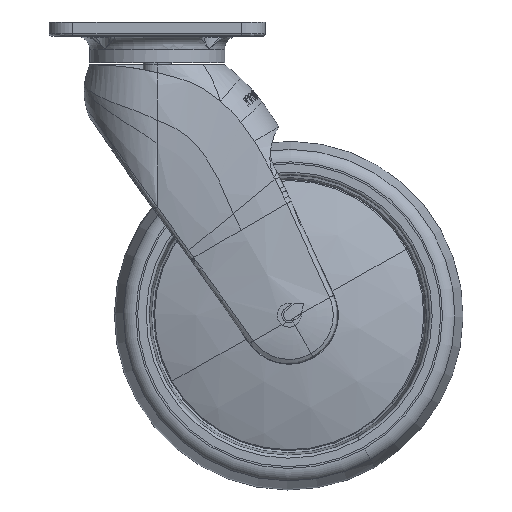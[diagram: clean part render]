
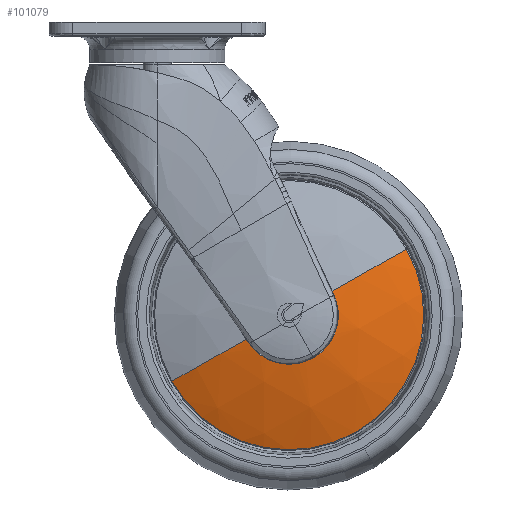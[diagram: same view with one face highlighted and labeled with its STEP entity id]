
A CAD part, front view. The second image highlights one B-rep face of the part: STEP entity #101079.
In plain terms, the highlighted spherical face has radius 136.86 mm.
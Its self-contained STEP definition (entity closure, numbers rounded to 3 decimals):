
#816 = ORIENTED_EDGE ( 'NONE', *, *, #101139, .T. ) ;
#980 = EDGE_CURVE ( 'NONE', #101013, #101017, #99174, .T. ) ;
#993 = VERTEX_POINT ( 'NONE', #99166 ) ;
#94150 = AXIS2_PLACEMENT_3D ( 'NONE', #94193, #94184, #94183 ) ;
#94153 = CIRCLE ( 'NONE', #94150, 135.74 ) ;
#94182 = CARTESIAN_POINT ( 'NONE',  ( -10.118, -6.77, -70.599 ) ) ;
#94183 = DIRECTION ( 'NONE',  ( 0.419, 0., -0.908 ) ) ;
#94184 = DIRECTION ( 'NONE',  ( 0.908, 0., 0.419 ) ) ;
#94193 = CARTESIAN_POINT ( 'NONE',  ( 47.523, 121.424, -39.786 ) ) ;
#94195 = CARTESIAN_POINT ( 'NONE',  ( 73.427, -6.77, -23.615 ) ) ;
#94230 = CARTESIAN_POINT ( 'NONE',  ( 17.156, 121.424, -56.863 ) ) ;
#94232 = AXIS2_PLACEMENT_3D ( 'NONE', #94230, #94268, #94267 ) ;
#94235 = CIRCLE ( 'NONE', #94232, 135.74 ) ;
#94253 = SPHERICAL_SURFACE ( 'NONE', #94289, 136.86 ) ;
#94254 = FACE_OUTER_BOUND ( 'NONE', #101075, .T. ) ;
#94255 = DIRECTION ( 'NONE',  ( -0.872, 0., -0.49 ) ) ;
#94256 = DIRECTION ( 'NONE',  ( 0.49, 0., -0.872 ) ) ;
#94257 = CARTESIAN_POINT ( 'NONE',  ( 31.655, 121.424, -47.107 ) ) ;
#94258 = AXIS2_PLACEMENT_3D ( 'NONE', #94257, #94256, #94255 ) ;
#94262 = CIRCLE ( 'NONE', #94258, 136.86 ) ;
#94267 = DIRECTION ( 'NONE',  ( -0.558, 0., 0.83 ) ) ;
#94268 = DIRECTION ( 'NONE',  ( -0.83, 0., -0.558 ) ) ;
#94286 = DIRECTION ( 'NONE',  ( 0.872, 0., 0.49 ) ) ;
#94287 = DIRECTION ( 'NONE',  ( 0.49, 0., -0.872 ) ) ;
#94288 = CARTESIAN_POINT ( 'NONE',  ( 31.655, 121.424, -47.107 ) ) ;
#94289 = AXIS2_PLACEMENT_3D ( 'NONE', #94288, #94287, #94286 ) ;
#94296 = CARTESIAN_POINT ( 'NONE',  ( 16.374, -14.308, -55.701 ) ) ;
#94343 = CARTESIAN_POINT ( 'NONE',  ( 17.156, -14.315, -56.863 ) ) ;
#94380 = DIRECTION ( 'NONE',  ( 0.872, 0., 0.49 ) ) ;
#94381 = DIRECTION ( 'NONE',  ( -0.49, 0., 0.872 ) ) ;
#94383 = CARTESIAN_POINT ( 'NONE',  ( 31.655, 121.424, -47.107 ) ) ;
#94389 = CIRCLE ( 'NONE', #94404, 136.86 ) ;
#94404 = AXIS2_PLACEMENT_3D ( 'NONE', #94383, #94381, #94380 ) ;
#94449 = CARTESIAN_POINT ( 'NONE',  ( 31.655, -14.315, -47.107 ) ) ;
#94452 = DIRECTION ( 'NONE',  ( -0.872, 0., -0.49 ) ) ;
#94453 = DIRECTION ( 'NONE',  ( 0., 1., 0. ) ) ;
#94461 = AXIS2_PLACEMENT_3D ( 'NONE', #94449, #94453, #94452 ) ;
#94469 = CARTESIAN_POINT ( 'NONE',  ( 46.936, -14.308, -38.513 ) ) ;
#94470 = CIRCLE ( 'NONE', #94461, 17.476 ) ;
#99166 = CARTESIAN_POINT ( 'NONE',  ( 47.523, -14.315, -39.786 ) ) ;
#99174 = CIRCLE ( 'NONE', #99220, 47.925 ) ;
#99217 = DIRECTION ( 'NONE',  ( -0.872, 0., -0.49 ) ) ;
#99218 = DIRECTION ( 'NONE',  ( 0., 1., 0. ) ) ;
#99219 = CARTESIAN_POINT ( 'NONE',  ( 31.655, -6.77, -47.107 ) ) ;
#99220 = AXIS2_PLACEMENT_3D ( 'NONE', #99219, #99218, #99217 ) ;
#100995 = ORIENTED_EDGE ( 'NONE', *, *, #980, .F. ) ;
#101013 = VERTEX_POINT ( 'NONE', #94195 ) ;
#101014 = EDGE_CURVE ( 'NONE', #101135, #993, #94153, .T. ) ;
#101017 = VERTEX_POINT ( 'NONE', #94182 ) ;
#101061 = EDGE_CURVE ( 'NONE', #101112, #101082, #94235, .T. ) ;
#101066 = ORIENTED_EDGE ( 'NONE', *, *, #101014, .T. ) ;
#101068 = EDGE_CURVE ( 'NONE', #101082, #101017, #94262, .T. ) ;
#101070 = ORIENTED_EDGE ( 'NONE', *, *, #101061, .T. ) ;
#101075 = EDGE_LOOP ( 'NONE', ( #101070, #101080, #100995, #101116, #101066, #816 ) ) ;
#101079 = ADVANCED_FACE ( 'NONE', ( #94254 ), #94253, .T. ) ;
#101080 = ORIENTED_EDGE ( 'NONE', *, *, #101068, .T. ) ;
#101082 = VERTEX_POINT ( 'NONE', #94296 ) ;
#101112 = VERTEX_POINT ( 'NONE', #94343 ) ;
#101116 = ORIENTED_EDGE ( 'NONE', *, *, #101119, .F. ) ;
#101119 = EDGE_CURVE ( 'NONE', #101135, #101013, #94389, .T. ) ;
#101135 = VERTEX_POINT ( 'NONE', #94469 ) ;
#101139 = EDGE_CURVE ( 'NONE', #993, #101112, #94470, .T. ) ;
